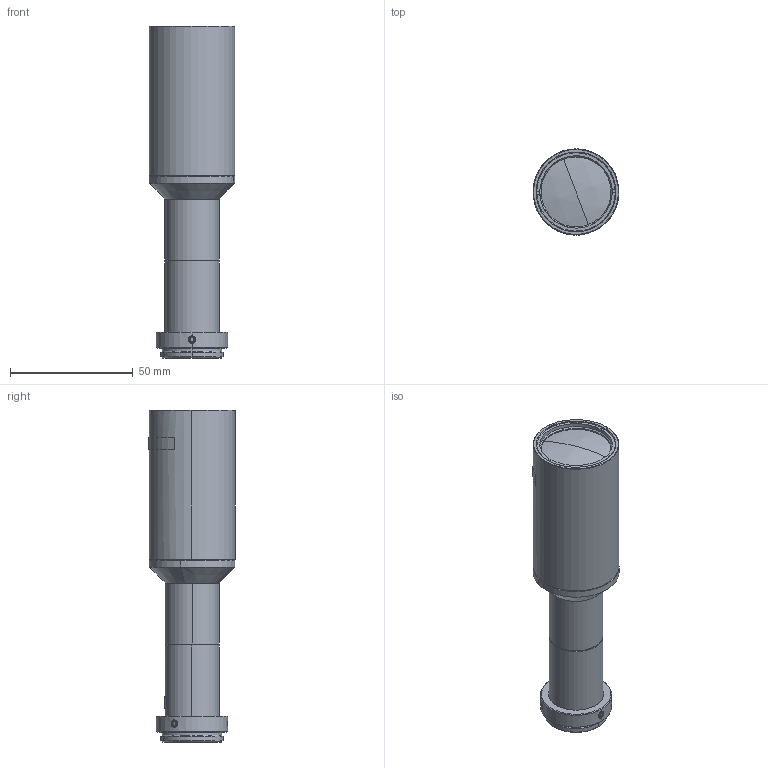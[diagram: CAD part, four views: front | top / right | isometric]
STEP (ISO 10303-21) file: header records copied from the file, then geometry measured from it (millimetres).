
FILE_DESCRIPTION (( 'STEP AP214' ), '1' );
FILE_NAME ('TEC-M05110MP_210311.STEP', '2021-03-11T06:22:24', ( '' ), ( '' ), 'SwSTEP 2.0', 'SolidWorks 2019', '' );
FILE_SCHEMA (( 'AUTOMOTIVE_DESIGN' ));
Length unit declared in the file: millimetre
Products named in the file (1): TEC-M05110MP_210311
Bounding box: 34.99 x 35.04 x 135.21 mm (x, y, z)
Volume: 43409.8 mm3; surface area: 31180 mm2
Topology: 11 solids, 11 shells, 338 faces, 725 edges, 448 vertices
Faces by surface type: cylinder 120, cone 115, plane 91, bspline 8, sphere 4
Entity records: 14388 total; most frequent: CARTESIAN_POINT 2992, DIRECTION 1693, ORIENTED_EDGE 1450, EDGE_CURVE 725, AXIS2_PLACEMENT_3D 690, VERTEX_POINT 448, EDGE_LOOP 395, CIRCLE 359
